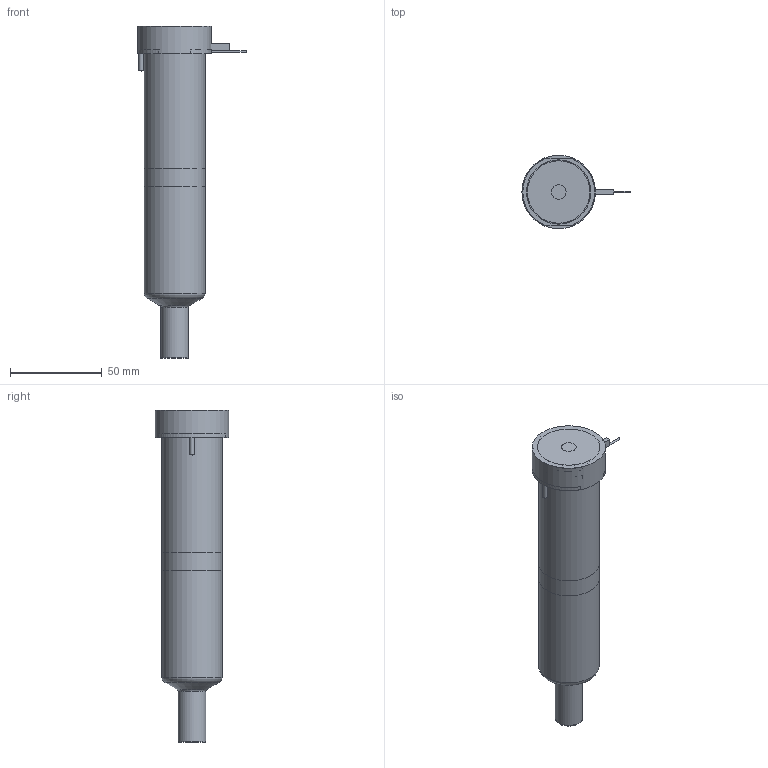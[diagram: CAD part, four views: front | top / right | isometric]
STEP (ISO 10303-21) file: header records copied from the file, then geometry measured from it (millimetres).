
FILE_DESCRIPTION(/* description */ (''),/* implementation_level */ '2;1');
FILE_NAME(/* name */ 'BXTSX-BXISX-BXOSX19145_200C_b',/* time_stamp */ '2008-04-29T14:06:44+12:00',/* author */ (''),/* organization */ (''),/* preprocessor_version */ 'ST-DEVELOPER v9',/* originating_system */ 'UGS - NX 4.0',/* authorisation */ '');
FILE_SCHEMA (('CONFIG_CONTROL_DESIGN'));
Length unit declared in the file: millimetre
Products named in the file (1): BXTSX-BXISX-BXOSX19145_200C_b
Bounding box: 58.85 x 40 x 180.64 mm (x, y, z)
Volume: 255702.2 mm3; surface area: 41331.7 mm2
Topology: 6 solids, 6 shells, 74 faces, 147 edges, 95 vertices
Faces by surface type: plane 35, cylinder 23, cone 8, torus 7, bspline 1
Full cylindrical faces by diameter (mm): 1 x3, 1.2 x1, 2.5 x2, 8 x1, 14.61 x1, 15.01 x2, 18.3 x1, 28.6 x1, 33 x2, 40 x1
Entity records: 1860 total; most frequent: CARTESIAN_POINT 376, DIRECTION 310, ORIENTED_EDGE 220, AXIS2_PLACEMENT_3D 136, EDGE_LOOP 112, EDGE_CURVE 110, VERTEX_POINT 87, ADVANCED_FACE 74
